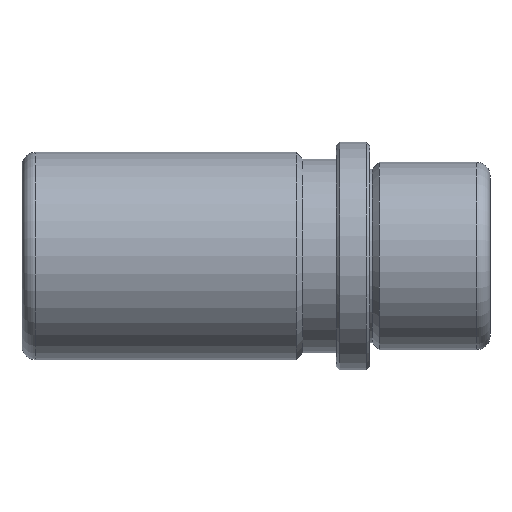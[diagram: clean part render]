
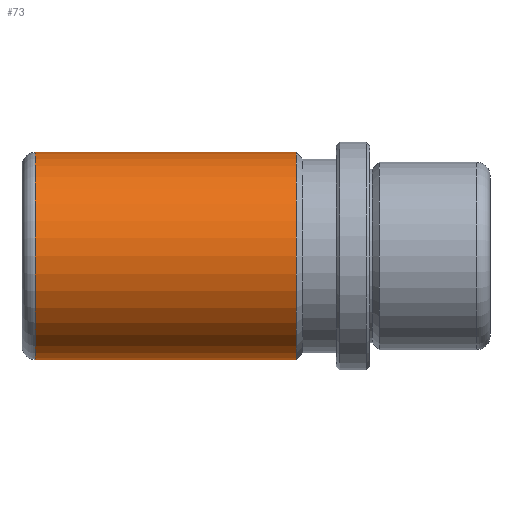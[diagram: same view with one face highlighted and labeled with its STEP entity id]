
A CAD part, front view. The second image highlights one B-rep face of the part: STEP entity #73.
In plain terms, the highlighted cylindrical face has radius 15.5 mm (diameter 31 mm), a full revolution.
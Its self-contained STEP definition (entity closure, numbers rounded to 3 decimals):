
#73 = ADVANCED_FACE( '', ( #161, #162, #163 ), #164, .T. );
#161 = FACE_OUTER_BOUND( '', #254, .T. );
#162 = FACE_BOUND( '', #255, .T. );
#163 = FACE_OUTER_BOUND( '', #256, .T. );
#164 = CYLINDRICAL_SURFACE( '', #257, 15.5 );
#254 = EDGE_LOOP( '', ( #369 ) );
#255 = EDGE_LOOP( '', ( #370 ) );
#256 = EDGE_LOOP( '', ( #371 ) );
#257 = AXIS2_PLACEMENT_3D( '', #372, #373, #374 );
#369 = ORIENTED_EDGE( '', *, *, #440, .T. );
#370 = ORIENTED_EDGE( '', *, *, #427, .T. );
#371 = ORIENTED_EDGE( '', *, *, #446, .F. );
#372 = CARTESIAN_POINT( '', ( 18., 0., 0. ) );
#373 = DIRECTION( '', ( -1., 0., 0. ) );
#374 = DIRECTION( '', ( 0., 0., -1. ) );
#427 = EDGE_CURVE( '', #480, #480, #481, .T. );
#440 = EDGE_CURVE( '', #500, #500, #501, .T. );
#446 = EDGE_CURVE( '', #509, #509, #510, .T. );
#480 = VERTEX_POINT( '', #602 );
#481 = B_SPLINE_CURVE_WITH_KNOTS( '', 3, ( #603, #604, #605, #606, #607, #608, #609, #610, #611, #612, #613, #614, #615, #616, #617, #618, #619, #620, #621, #622, #623, #624, #625, #626, #627, #628, #629, #630, #631, #632, #633, #634, #635, #636, #637, #638, #639, #640, #641, #642, #643, #644, #645, #646, #647, #648, #649, #650, #651, #652, #653, #654, #655, #656, #657, #658, #659, #660, #661, #662 ), .UNSPECIFIED., .T., .F., ( 2, 2, 2, 2, 2, 2, 2, 2, 2, 2, 2, 2, 2, 2, 2, 2, 2, 2, 2, 2, 2, 2, 2, 2, 2, 2, 2, 2, 2, 2, 2, 2 ), ( 0., 0., 0., 0.001, 0.001, 0.002, 0.003, 0.003, 0.004, 0.004, 0.005, 0.005, 0.006, 0.006, 0.007, 0.007, 0.008, 0.009, 0.009, 0.01, 0.01, 0.011, 0.011, 0.012, 0.012, 0.013, 0.013, 0.013, 0.014, 0.015, 0.015, 0.016 ), .UNSPECIFIED. );
#500 = VERTEX_POINT( '', #681 );
#501 = CIRCLE( '', #682, 15.5 );
#509 = VERTEX_POINT( '', #690 );
#510 = CIRCLE( '', #691, 15.5 );
#602 = CARTESIAN_POINT( '', ( -18., 15.304, -2.459 ) );
#603 = CARTESIAN_POINT( '', ( -18.163, 15.304, -2.459 ) );
#604 = CARTESIAN_POINT( '', ( -17.837, 15.304, -2.459 ) );
#605 = CARTESIAN_POINT( '', ( -17.677, 15.306, -2.443 ) );
#606 = CARTESIAN_POINT( '', ( -17.363, 15.316, -2.38 ) );
#607 = CARTESIAN_POINT( '', ( -17.207, 15.324, -2.333 ) );
#608 = CARTESIAN_POINT( '', ( -16.909, 15.342, -2.209 ) );
#609 = CARTESIAN_POINT( '', ( -16.768, 15.353, -2.133 ) );
#610 = CARTESIAN_POINT( '', ( -16.501, 15.376, -1.955 ) );
#611 = CARTESIAN_POINT( '', ( -16.375, 15.389, -1.851 ) );
#612 = CARTESIAN_POINT( '', ( -16.035, 15.428, -1.512 ) );
#613 = CARTESIAN_POINT( '', ( -15.852, 15.453, -1.238 ) );
#614 = CARTESIAN_POINT( '', ( -15.668, 15.48, -0.794 ) );
#615 = CARTESIAN_POINT( '', ( -15.621, 15.488, -0.639 ) );
#616 = CARTESIAN_POINT( '', ( -15.557, 15.497, -0.322 ) );
#617 = CARTESIAN_POINT( '', ( -15.542, 15.5, -0.162 ) );
#618 = CARTESIAN_POINT( '', ( -15.541, 15.5, 0.159 ) );
#619 = CARTESIAN_POINT( '', ( -15.557, 15.497, 0.322 ) );
#620 = CARTESIAN_POINT( '', ( -15.62, 15.488, 0.638 ) );
#621 = CARTESIAN_POINT( '', ( -15.667, 15.481, 0.791 ) );
#622 = CARTESIAN_POINT( '', ( -15.79, 15.462, 1.089 ) );
#623 = CARTESIAN_POINT( '', ( -15.867, 15.451, 1.233 ) );
#624 = CARTESIAN_POINT( '', ( -16.045, 15.428, 1.499 ) );
#625 = CARTESIAN_POINT( '', ( -16.147, 15.415, 1.623 ) );
#626 = CARTESIAN_POINT( '', ( -16.376, 15.389, 1.852 ) );
#627 = CARTESIAN_POINT( '', ( -16.499, 15.377, 1.954 ) );
#628 = CARTESIAN_POINT( '', ( -16.765, 15.353, 2.132 ) );
#629 = CARTESIAN_POINT( '', ( -16.909, 15.342, 2.209 ) );
#630 = CARTESIAN_POINT( '', ( -17.207, 15.324, 2.333 ) );
#631 = CARTESIAN_POINT( '', ( -17.36, 15.316, 2.379 ) );
#632 = CARTESIAN_POINT( '', ( -17.675, 15.306, 2.442 ) );
#633 = CARTESIAN_POINT( '', ( -17.838, 15.304, 2.458 ) );
#634 = CARTESIAN_POINT( '', ( -18.32, 15.304, 2.459 ) );
#635 = CARTESIAN_POINT( '', ( -18.644, 15.314, 2.394 ) );
#636 = CARTESIAN_POINT( '', ( -19.088, 15.342, 2.21 ) );
#637 = CARTESIAN_POINT( '', ( -19.231, 15.353, 2.134 ) );
#638 = CARTESIAN_POINT( '', ( -19.5, 15.377, 1.955 ) );
#639 = CARTESIAN_POINT( '', ( -19.623, 15.389, 1.853 ) );
#640 = CARTESIAN_POINT( '', ( -19.85, 15.415, 1.627 ) );
#641 = CARTESIAN_POINT( '', ( -19.954, 15.428, 1.501 ) );
#642 = CARTESIAN_POINT( '', ( -20.132, 15.451, 1.234 ) );
#643 = CARTESIAN_POINT( '', ( -20.208, 15.462, 1.093 ) );
#644 = CARTESIAN_POINT( '', ( -20.332, 15.48, 0.795 ) );
#645 = CARTESIAN_POINT( '', ( -20.379, 15.488, 0.639 ) );
#646 = CARTESIAN_POINT( '', ( -20.442, 15.497, 0.325 ) );
#647 = CARTESIAN_POINT( '', ( -20.458, 15.5, 0.164 ) );
#648 = CARTESIAN_POINT( '', ( -20.459, 15.5, -0.16 ) );
#649 = CARTESIAN_POINT( '', ( -20.443, 15.497, -0.32 ) );
#650 = CARTESIAN_POINT( '', ( -20.38, 15.488, -0.635 ) );
#651 = CARTESIAN_POINT( '', ( -20.333, 15.48, -0.792 ) );
#652 = CARTESIAN_POINT( '', ( -20.21, 15.462, -1.089 ) );
#653 = CARTESIAN_POINT( '', ( -20.135, 15.452, -1.23 ) );
#654 = CARTESIAN_POINT( '', ( -19.956, 15.428, -1.498 ) );
#655 = CARTESIAN_POINT( '', ( -19.853, 15.415, -1.624 ) );
#656 = CARTESIAN_POINT( '', ( -19.514, 15.377, -1.964 ) );
#657 = CARTESIAN_POINT( '', ( -19.24, 15.351, -2.147 ) );
#658 = CARTESIAN_POINT( '', ( -18.796, 15.324, -2.331 ) );
#659 = CARTESIAN_POINT( '', ( -18.641, 15.316, -2.379 ) );
#660 = CARTESIAN_POINT( '', ( -18.323, 15.306, -2.443 ) );
#661 = CARTESIAN_POINT( '', ( -18.163, 15.304, -2.459 ) );
#662 = CARTESIAN_POINT( '', ( -17.837, 15.304, -2.459 ) );
#681 = CARTESIAN_POINT( '', ( -50., 0., -15.5 ) );
#682 = AXIS2_PLACEMENT_3D( '', #745, #746, #747 );
#690 = CARTESIAN_POINT( '', ( -11., 0., -15.5 ) );
#691 = AXIS2_PLACEMENT_3D( '', #754, #755, #756 );
#745 = CARTESIAN_POINT( '', ( -50., 0., 0. ) );
#746 = DIRECTION( '', ( 1., 0., 0. ) );
#747 = DIRECTION( '', ( 0., 0., -1. ) );
#754 = CARTESIAN_POINT( '', ( -11., 0., 0. ) );
#755 = DIRECTION( '', ( 1., 0., 0. ) );
#756 = DIRECTION( '', ( 0., 0., -1. ) );
